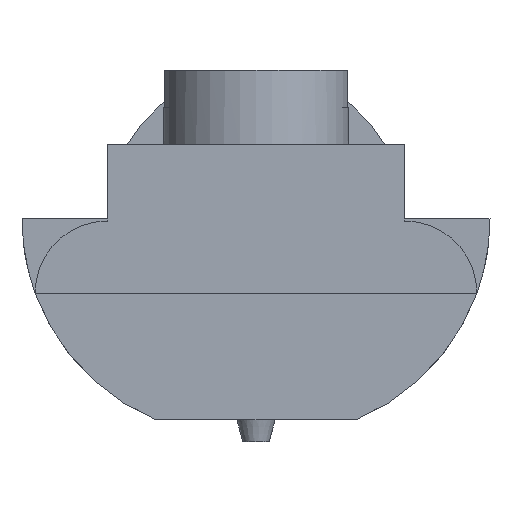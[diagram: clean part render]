
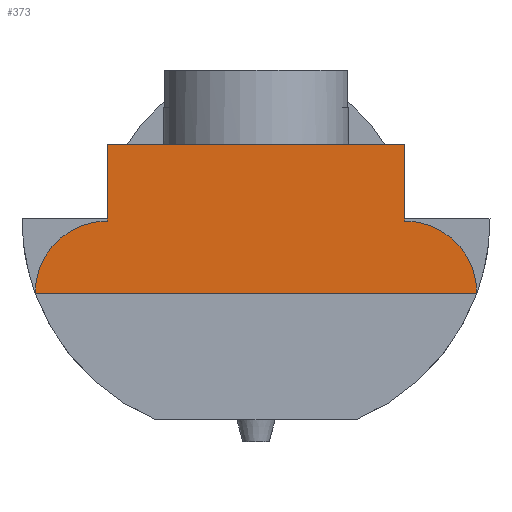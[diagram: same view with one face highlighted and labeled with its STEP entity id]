
A CAD part, front view. The second image highlights one B-rep face of the part: STEP entity #373.
In plain terms, the highlighted planar face has unit normal (0, -1, 0).
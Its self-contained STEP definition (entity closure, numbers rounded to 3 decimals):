
#50 = VERTEX_POINT('',#51);
#51 = CARTESIAN_POINT('',(-2.97,-27.5,-1.));
#165 = EDGE_CURVE('',#166,#50,#168,.T.);
#166 = VERTEX_POINT('',#167);
#167 = CARTESIAN_POINT('',(2.97,-27.5,-1.));
#168 = LINE('',#169,#170);
#169 = CARTESIAN_POINT('',(3.147,-27.5,-1.));
#170 = VECTOR('',#171,1.);
#171 = DIRECTION('',(-1.,0.,0.));
#190 = VERTEX_POINT('',#191);
#191 = CARTESIAN_POINT('',(-2.,-27.5,-0.03));
#207 = EDGE_CURVE('',#190,#50,#208,.T.);
#208 = CIRCLE('',#209,0.97);
#209 = AXIS2_PLACEMENT_3D('',#210,#211,#212);
#210 = CARTESIAN_POINT('',(-2.,-27.5,-1.));
#211 = DIRECTION('',(0.,-1.,0.));
#212 = DIRECTION('',(1.,0.,0.));
#373 = ADVANCED_FACE('',(#374),#409,.F.);
#374 = FACE_BOUND('',#375,.F.);
#375 = EDGE_LOOP('',(#376,#384,#392,#400,#407,#408));
#376 = ORIENTED_EDGE('',*,*,#377,.F.);
#377 = EDGE_CURVE('',#378,#190,#380,.T.);
#378 = VERTEX_POINT('',#379);
#379 = CARTESIAN_POINT('',(-2.,-27.5,1.));
#380 = LINE('',#381,#382);
#381 = CARTESIAN_POINT('',(-2.,-27.5,1.));
#382 = VECTOR('',#383,1.);
#383 = DIRECTION('',(0.,0.,-1.));
#384 = ORIENTED_EDGE('',*,*,#385,.T.);
#385 = EDGE_CURVE('',#378,#386,#388,.T.);
#386 = VERTEX_POINT('',#387);
#387 = CARTESIAN_POINT('',(2.,-27.5,1.));
#388 = LINE('',#389,#390);
#389 = CARTESIAN_POINT('',(-2.,-27.5,1.));
#390 = VECTOR('',#391,1.);
#391 = DIRECTION('',(1.,0.,0.));
#392 = ORIENTED_EDGE('',*,*,#393,.T.);
#393 = EDGE_CURVE('',#386,#394,#396,.T.);
#394 = VERTEX_POINT('',#395);
#395 = CARTESIAN_POINT('',(2.,-27.5,-0.03));
#396 = LINE('',#397,#398);
#397 = CARTESIAN_POINT('',(2.,-27.5,1.));
#398 = VECTOR('',#399,1.);
#399 = DIRECTION('',(0.,0.,-1.));
#400 = ORIENTED_EDGE('',*,*,#401,.F.);
#401 = EDGE_CURVE('',#166,#394,#402,.T.);
#402 = CIRCLE('',#403,0.97);
#403 = AXIS2_PLACEMENT_3D('',#404,#405,#406);
#404 = CARTESIAN_POINT('',(2.,-27.5,-1.));
#405 = DIRECTION('',(0.,-1.,0.));
#406 = DIRECTION('',(1.,0.,0.));
#407 = ORIENTED_EDGE('',*,*,#165,.T.);
#408 = ORIENTED_EDGE('',*,*,#207,.F.);
#409 = PLANE('',#410);
#410 = AXIS2_PLACEMENT_3D('',#411,#412,#413);
#411 = CARTESIAN_POINT('',(0.,-27.5,-0.142));
#412 = DIRECTION('',(0.,1.,0.));
#413 = DIRECTION('',(0.,0.,1.));
